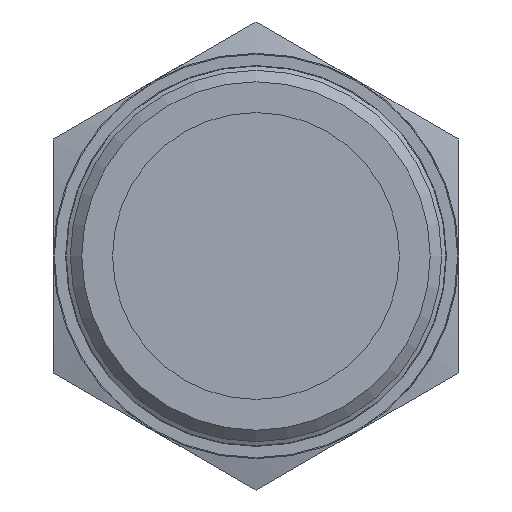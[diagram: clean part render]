
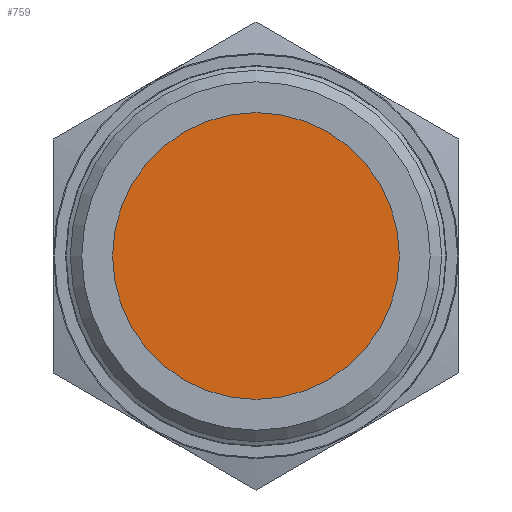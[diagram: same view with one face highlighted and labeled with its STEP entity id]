
A CAD part, left-side view. The second image highlights one B-rep face of the part: STEP entity #759.
In plain terms, the highlighted planar face has unit normal (-1, 0, 0).
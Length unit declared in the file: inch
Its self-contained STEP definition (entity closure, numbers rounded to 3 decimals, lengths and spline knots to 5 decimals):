
#759 = ADVANCED_FACE( '', ( #1688 ), #1689, .T. );
#1688 = FACE_OUTER_BOUND( '', #3894, .T. );
#1689 = PLANE( '', #3895 );
#3894 = EDGE_LOOP( '', ( #6180 ) );
#3895 = AXIS2_PLACEMENT_3D( '', #6181, #6182, #6183 );
#6180 = ORIENTED_EDGE( '', *, *, #7495, .T. );
#6181 = CARTESIAN_POINT( '', ( 0.25, 0., 0.7075 ) );
#6182 = DIRECTION( '', ( -1., 0., 0. ) );
#6183 = DIRECTION( '', ( 0., 0., 1. ) );
#7495 = EDGE_CURVE( '', #8834, #8834, #8835, .T. );
#8834 = VERTEX_POINT( '', #11757 );
#8835 = CIRCLE( '', #11758, 0.7075 );
#11757 = CARTESIAN_POINT( '', ( 0.25, 0., 0.7075 ) );
#11758 = AXIS2_PLACEMENT_3D( '', #12780, #12781, #12782 );
#12780 = CARTESIAN_POINT( '', ( 0.25, 0., 0. ) );
#12781 = DIRECTION( '', ( -1., 0., 0. ) );
#12782 = DIRECTION( '', ( 0., 0., 1. ) );
